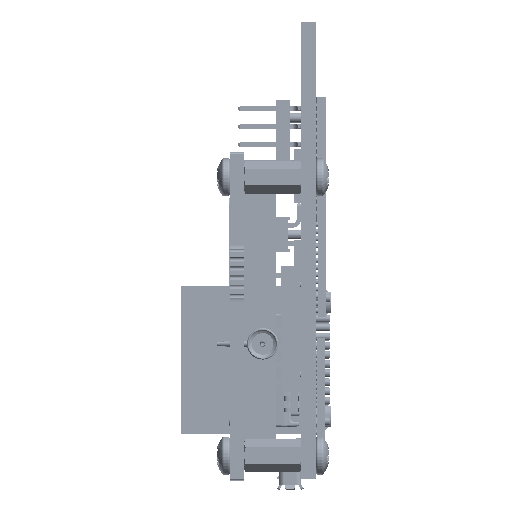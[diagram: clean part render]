
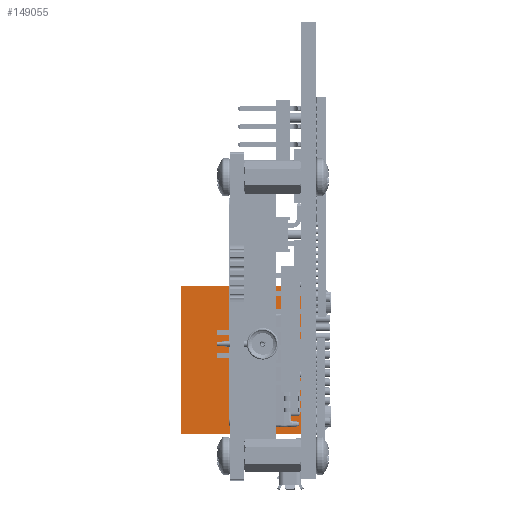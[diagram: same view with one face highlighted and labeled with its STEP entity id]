
A CAD part, left-side view. The second image highlights one B-rep face of the part: STEP entity #149055.
In plain terms, the highlighted planar face has unit normal (-1, 0, 0) as drawn and (0, 0, -1) by its records, which use the part's own axes.
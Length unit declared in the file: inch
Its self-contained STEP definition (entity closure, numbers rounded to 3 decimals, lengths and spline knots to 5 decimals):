
#2808 = VERTEX_POINT ( 'NONE', #174310 ) ;
#8428 = EDGE_CURVE ( 'NONE', #149849, #87456, #96488, .T. ) ;
#10194 = ORIENTED_EDGE ( 'NONE', *, *, #14697, .F. ) ;
#14697 = EDGE_CURVE ( 'NONE', #2808, #72372, #127119, .T. ) ;
#26552 = LINE ( 'NONE', #42567, #165631 ) ;
#34560 = DIRECTION ( 'NONE',  ( 0., -1., 0. ) ) ;
#42567 = CARTESIAN_POINT ( 'NONE',  ( -0.324, 0.528, -0.618 ) ) ;
#48721 = CARTESIAN_POINT ( 'NONE',  ( -0.324, 0., -0.618 ) ) ;
#55396 = VECTOR ( 'NONE', #34560, 39.37008 ) ;
#56040 = DIRECTION ( 'NONE',  ( -1., 0., 0. ) ) ;
#56296 = CARTESIAN_POINT ( 'NONE',  ( -0.324, 0.528, -0.618 ) ) ;
#60630 = VECTOR ( 'NONE', #99036, 39.37008 ) ;
#63406 = CARTESIAN_POINT ( 'NONE',  ( 0.324, 0.528, -0.618 ) ) ;
#68236 = EDGE_CURVE ( 'NONE', #87456, #2808, #26552, .T. ) ;
#68973 = EDGE_LOOP ( 'NONE', ( #10194, #156338, #119497, #112410 ) ) ;
#69845 = DIRECTION ( 'NONE',  ( -1., 0., 0. ) ) ;
#70897 = AXIS2_PLACEMENT_3D ( 'NONE', #56296, #150598, #69845 ) ;
#72372 = VERTEX_POINT ( 'NONE', #154872 ) ;
#84551 = EDGE_CURVE ( 'NONE', #72372, #149849, #165572, .T. ) ;
#85401 = CARTESIAN_POINT ( 'NONE',  ( 0.324, 0., -0.618 ) ) ;
#87456 = VERTEX_POINT ( 'NONE', #63406 ) ;
#89311 = DIRECTION ( 'NONE',  ( 1., 0., 0. ) ) ;
#96488 = LINE ( 'NONE', #85401, #60630 ) ;
#99036 = DIRECTION ( 'NONE',  ( 0., 1., 0. ) ) ;
#101745 = CARTESIAN_POINT ( 'NONE',  ( -0.324, 0., -0.618 ) ) ;
#112410 = ORIENTED_EDGE ( 'NONE', *, *, #84551, .F. ) ;
#119497 = ORIENTED_EDGE ( 'NONE', *, *, #8428, .F. ) ;
#127119 = LINE ( 'NONE', #101745, #55396 ) ;
#129809 = VECTOR ( 'NONE', #89311, 39.37008 ) ;
#149055 = ADVANCED_FACE ( 'NONE', ( #153134 ), #150058, .T. ) ;
#149849 = VERTEX_POINT ( 'NONE', #155581 ) ;
#150058 = PLANE ( 'NONE',  #70897 ) ;
#150598 = DIRECTION ( 'NONE',  ( 0., 0., -1. ) ) ;
#153134 = FACE_OUTER_BOUND ( 'NONE', #68973, .T. ) ;
#154872 = CARTESIAN_POINT ( 'NONE',  ( -0.324, 0., -0.618 ) ) ;
#155581 = CARTESIAN_POINT ( 'NONE',  ( 0.324, 0., -0.618 ) ) ;
#156338 = ORIENTED_EDGE ( 'NONE', *, *, #68236, .F. ) ;
#165572 = LINE ( 'NONE', #48721, #129809 ) ;
#165631 = VECTOR ( 'NONE', #56040, 39.37008 ) ;
#174310 = CARTESIAN_POINT ( 'NONE',  ( -0.324, 0.528, -0.618 ) ) ;
